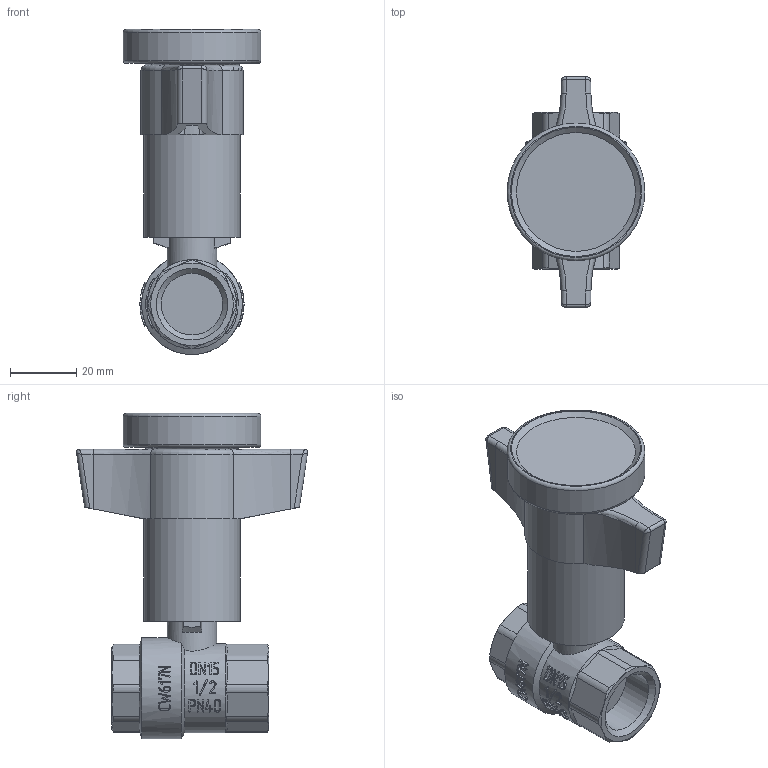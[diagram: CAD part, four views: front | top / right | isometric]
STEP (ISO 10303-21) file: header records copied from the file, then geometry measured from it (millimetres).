
FILE_DESCRIPTION(('STEP AP203'), '1');
FILE_NAME('VT.808.N.04', '', ('UNSPECIFIED'), ('UNSPECIFIED'), 'C3D Converter', 'C3D Toolkit', '');
FILE_SCHEMA(('CONFIG_CONTROL_DESIGN'));
Length unit declared in the file: millimetre
Products named in the file (1): ВР.491812.023.000 СБ
Bounding box: 41.7 x 70 x 98.45 mm (x, y, z)
Volume: 63153.4 mm3; surface area: 28404.8 mm2
Topology: 1 solids, 1 shells, 858 faces, 2358 edges, 1545 vertices
Faces by surface type: plane 330, extrusion 330, cylinder 123, cone 48, torus 15, bspline 12
Full cylindrical faces by diameter (mm): 6.647 x1, 8 x2, 8.4 x1, 10 x1, 10.5 x1, 12 x2, 15 x1, 18 x1, 18.632 x2, 23 x1, 27 x1, 29.2 x1, 30.5 x1, 41.7 x1
Entity records: 40616 total; most frequent: CARTESIAN_POINT 20918, ORIENTED_EDGE 4626, DIRECTION 2987, EDGE_CURVE 2313, VERTEX_POINT 1544, VECTOR 1255, B_SPLINE_CURVE_WITH_KNOTS 1179, EDGE_LOOP 951
